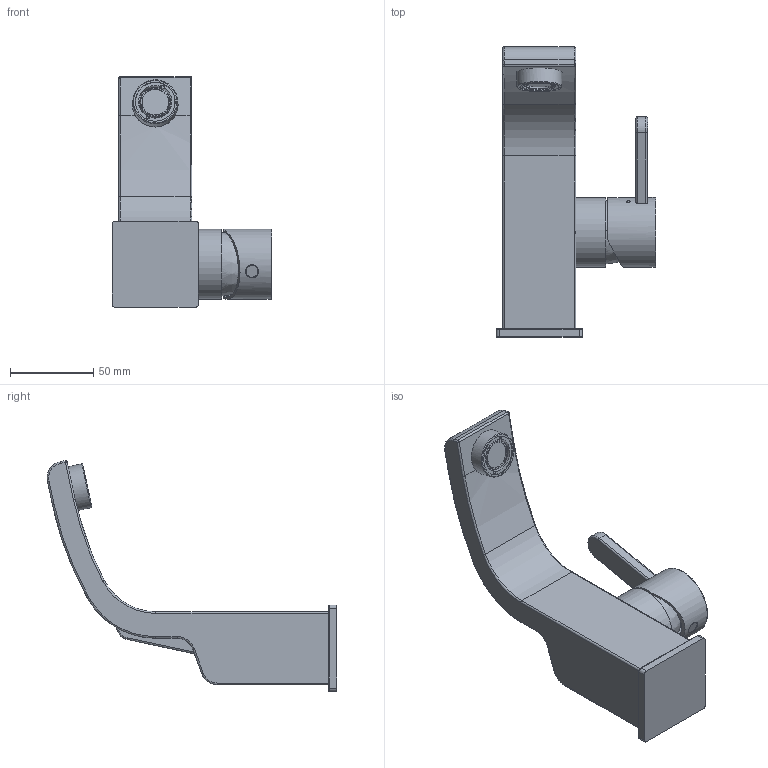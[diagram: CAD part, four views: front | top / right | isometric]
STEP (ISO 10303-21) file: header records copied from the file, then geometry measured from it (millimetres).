
FILE_DESCRIPTION(/* description */ (''),/* implementation_level */ '2;1');
FILE_NAME(/* name */ 'c:\worker\convert-fusion-apr-2019\tmp\job-1\28\output\files\e3c3e7f4-32b6-410b-9f5f-e90342bd47d6\035969fd-e4e7-4195-987e-ccaf5a932daa.stp',/* time_stamp */ '2019-05-20T06:57:46+00:00',/* author */ (''),/* organization */ (''),/* preprocessor_version */ 'ST-DEVELOPER v18',/* originating_system */ 'Autodesk Translation Framework v8.2.0.1029',/* authorisation */ '');
FILE_SCHEMA (('AUTOMOTIVE_DESIGN { 1 0 10303 214 3 1 1 }'));
Length unit declared in the file: millimetre
Products named in the file (1): !DA5010
Bounding box: 96.2 x 174.47 x 138.93 mm (x, y, z)
Volume: 316015.4 mm3; surface area: 68643.5 mm2
Topology: 11 solids, 11 shells, 158 faces, 350 edges, 227 vertices
Faces by surface type: cylinder 55, plane 49, torus 26, bspline 20, cone 6, sphere 2
Full cylindrical faces by diameter (mm): 8 x1, 9 x2, 9.5 x1, 11.5 x2, 13.8 x2, 16 x1, 18 x1, 20.1 x1, 23.8 x1, 24 x1, 27 x1, 27.5 x1, 37 x1, 42 x2
Entity records: 16781 total; most frequent: CARTESIAN_POINT 13190, DIRECTION 790, ORIENTED_EDGE 700, EDGE_CURVE 350, AXIS2_PLACEMENT_3D 337, VERTEX_POINT 227, CIRCLE 197, EDGE_LOOP 173
